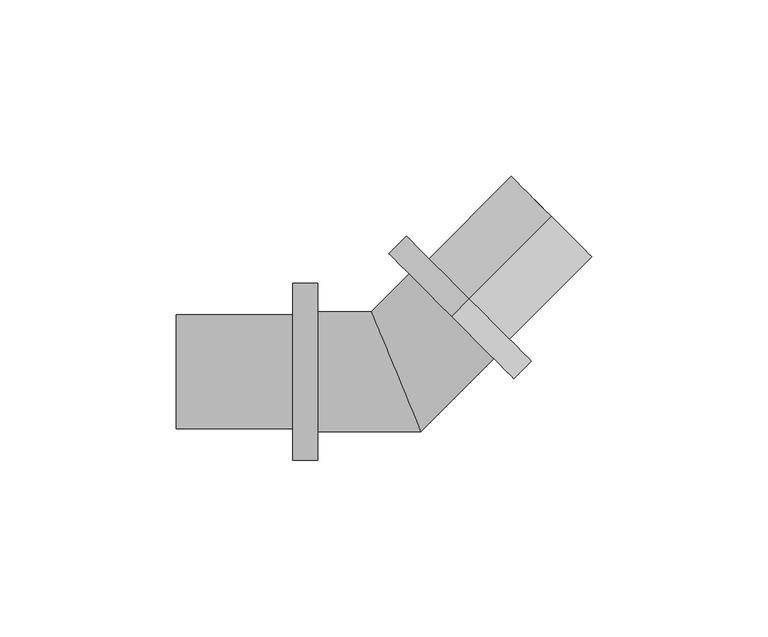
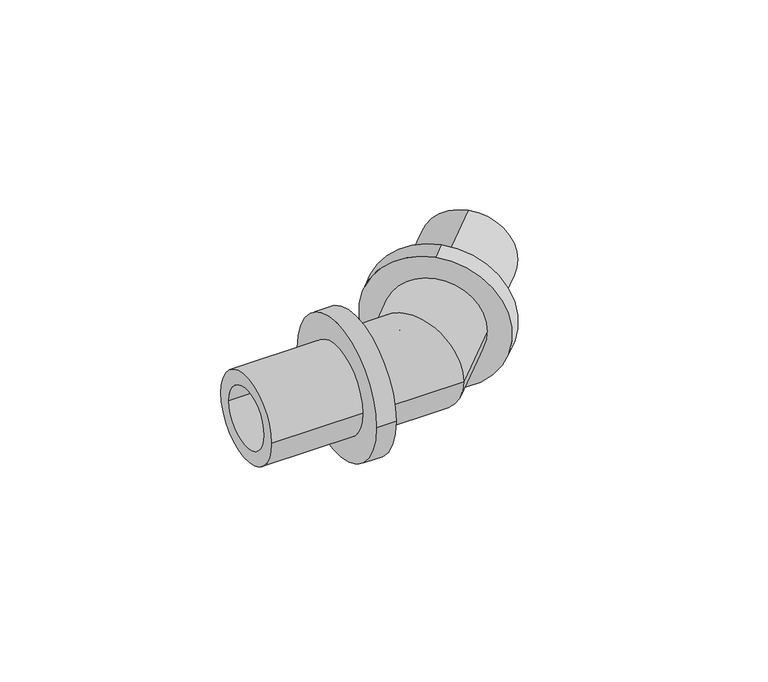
"""IFC4 building model written with IfcOpenShell, lengths in millimetres: pipe fitting geometry, RAUTITAN_Corner_PX : RTI PX C DE."""

from ifc_helpers import new_model, si_unit, frame, origin, place, context, project, spatial, polyline, circle_curve, ellipse_curve, source, transform, mapped, element, save
from ifc_brep_helpers import plane_surface, cylinder_surface, revolved_surface, advanced_brep


def pipe_fitting_6415dcd3(model_context):
    return source(origin(), model_context, "Body", "AdvancedBrep", [
        advanced_brep(
        [(20.6568542, 20.6568542, 25.1), (20.6568542, 20.6568542, -25.1), (15.7071068, 15.7071068, -25.1), (15.7071068, 15.7071068, 25.1), (43.991378, 43.991378, 16.1), (43.991378, 43.991378, -16.1), (20.6568542, 20.6568542, -16.1), (20.6568542, 20.6568542, 16.1), (15.7071068, 15.7071068, 11.0), (15.7071068, 15.7071068, -11.0), (43.991378, 43.991378, -11.0), (43.991378, 43.991378, 11.0)],
        [
            (0, 1, circle_curve(frame((20.6568542, 20.6568542, 0.0), z_axis=(-0.7071067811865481, -0.7071067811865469, 0.0), x_axis=(0.0, 0.0, -1.0)), 25.1)),
            (1, 2),
            (2, 3, circle_curve(frame((15.7071068, 15.7071068, 0.0), z_axis=(0.7071067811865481, 0.7071067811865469, 0.0), x_axis=(0.0, 0.0, -1.0)), 25.1)),
            (3, 0),
            (4, 5, circle_curve(frame((43.991378, 43.991378, 0.0), z_axis=(-0.7071067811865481, -0.7071067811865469, 0.0), x_axis=(0.0, 0.0, -1.0)), 16.1)),
            (5, 6),
            (6, 7, circle_curve(frame((20.6568542, 20.6568542, 0.0), z_axis=(0.7071067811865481, 0.7071067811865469, 0.0), x_axis=(0.0, 0.0, -1.0)), 16.1)),
            (7, 4),
            (8, 9, circle_curve(frame((15.7071068, 15.7071068, 0.0), z_axis=(-0.7071067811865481, -0.7071067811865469, 0.0), x_axis=(0.0, 0.0, -1.0)), 11.0)),
            (9, 10),
            (10, 11, circle_curve(frame((43.991378, 43.991378, 0.0), z_axis=(0.7071067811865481, 0.7071067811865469, 0.0), x_axis=(0.0, 0.0, -1.0)), 11.0)),
            (11, 8),
            (1, 0, circle_curve(frame((20.6568542, 20.6568542, 0.0), z_axis=(-0.7071067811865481, -0.7071067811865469, 0.0), x_axis=(0.0, 0.0, 1.0)), 25.1)),
            (3, 2, circle_curve(frame((15.7071068, 15.7071068, 0.0), z_axis=(0.7071067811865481, 0.7071067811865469, 0.0), x_axis=(0.0, 0.0, 1.0)), 25.1)),
            (6, 7, circle_curve(frame((20.6568542, 20.6568542, 0.0), z_axis=(-0.7071067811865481, -0.7071067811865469, 0.0), x_axis=(0.0, 0.0, 1.0)), 16.1)),
            (5, 4, circle_curve(frame((43.991378, 43.991378, 0.0), z_axis=(-0.7071067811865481, -0.7071067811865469, 0.0), x_axis=(0.0, 0.0, 1.0)), 16.1)),
            (10, 11, circle_curve(frame((43.991378, 43.991378, 0.0), z_axis=(-0.7071067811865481, -0.7071067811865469, 0.0), x_axis=(0.0, 0.0, 1.0)), 11.0)),
            (9, 8, circle_curve(frame((15.7071068, 15.7071068, 0.0), z_axis=(-0.7071067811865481, -0.7071067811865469, 0.0), x_axis=(0.0, 0.0, 1.0)), 11.0)),
        ],
        [
            cylinder_surface(frame((15.7071068, 15.7071068, 0.0), z_axis=(0.7071067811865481, 0.7071067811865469, 0.0), x_axis=(0.0, 0.0, -1.0)), 25.1),
            cylinder_surface(frame((15.7071068, 15.7071068, 0.0), z_axis=(0.7071067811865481, 0.7071067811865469, 0.0), x_axis=(0.0, 0.0, -1.0)), 16.1),
            revolved_surface(polyline([(43.991378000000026, 43.991377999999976, -11.0), (15.7071068, 15.7071068, -11.0)]), (15.7071068, 15.7071068, 0.0), (0.7071067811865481, 0.7071067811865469, 0.0)),
            cylinder_surface(frame((15.7071068, 15.7071068, 0.0), z_axis=(0.7071067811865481, 0.7071067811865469, 0.0), x_axis=(0.0, 0.0, 1.0)), 25.1),
            plane_surface(frame((20.6568542, 20.6568542, 0.0), z_axis=(0.7071067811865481, 0.7071067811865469, 0.0), x_axis=(0.0, 0.0, 1.0))),
            cylinder_surface(frame((15.7071068, 15.7071068, 0.0), z_axis=(0.7071067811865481, 0.7071067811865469, 0.0), x_axis=(0.0, 0.0, 1.0)), 16.1),
            plane_surface(frame((43.991378, 43.991378, 0.0), z_axis=(0.7071067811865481, 0.7071067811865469, 0.0), x_axis=(0.0, 0.0, 1.0))),
            revolved_surface(polyline([(43.991378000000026, 43.991377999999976, 11.0), (15.7071068, 15.7071068, 11.0)]), (15.7071068, 15.7071068, 0.0), (0.7071067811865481, 0.7071067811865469, 0.0)),
            plane_surface(frame((15.7071068, 15.7071068, 0.0), z_axis=(-0.7071067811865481, -0.7071067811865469, 0.0), x_axis=(0.0, 0.0, 1.0))),
        ],
        [
            (0, [[1, 2, 3, 4]]),
            (1, [[5, 6, 7, 8]]),
            (2, [[9, 10, 11, 12]]),
            (3, [[13, -4, 14, -2]]),
            (4, [[-13, -1], [15, -7]]),
            (5, [[16, -8, -15, -6]]),
            (6, [[-16, -5], [17, -11]]),
            (7, [[18, -12, -17, -10]]),
            (8, [[-14, -3], [-18, -9]]),
        ],
    ),
        advanced_brep(
        [(-29.2132034, -25.1, 0.0), (-29.2132034, 25.1, 0.0), (-22.2132034, 25.1, 0.0), (-22.2132034, -25.1, 0.0), (-62.2132034, -16.1, 0.0), (-62.2132034, 16.1, 0.0), (-29.2132034, 16.1, 0.0), (-29.2132034, -16.1, 0.0), (-22.2132034, -11.0, 0.0), (-22.2132034, 11.0, 0.0), (-62.2132034, 11.0, 0.0), (-62.2132034, -11.0, 0.0)],
        [
            (0, 1, circle_curve(frame((-29.2132034, 0.0, 0.0), z_axis=(1.0, 0.0, 0.0), x_axis=(0.0, 1.0, 0.0)), 25.1)),
            (1, 2),
            (2, 3, circle_curve(frame((-22.2132034, 0.0, 0.0), z_axis=(-1.0, 0.0, 0.0), x_axis=(0.0, 1.0, 0.0)), 25.1)),
            (3, 0),
            (4, 5, circle_curve(frame((-62.2132034, 0.0, 0.0), z_axis=(1.0, 0.0, 0.0), x_axis=(0.0, 1.0, 0.0)), 16.1)),
            (5, 6),
            (6, 7, circle_curve(frame((-29.2132034, 0.0, 0.0), z_axis=(-1.0, 0.0, 0.0), x_axis=(0.0, 1.0, 0.0)), 16.1)),
            (7, 4),
            (8, 9, circle_curve(frame((-22.2132034, 0.0, 0.0), z_axis=(1.0, 0.0, 0.0), x_axis=(0.0, 1.0, 0.0)), 11.0)),
            (9, 10),
            (10, 11, circle_curve(frame((-62.2132034, 0.0, 0.0), z_axis=(-1.0, 0.0, 0.0), x_axis=(0.0, 1.0, 0.0)), 11.0)),
            (11, 8),
            (1, 0, circle_curve(frame((-29.2132034, 0.0, 0.0), z_axis=(1.0, 0.0, 0.0), x_axis=(0.0, -1.0, 0.0)), 25.1)),
            (3, 2, circle_curve(frame((-22.2132034, 0.0, 0.0), z_axis=(-1.0, 0.0, 0.0), x_axis=(0.0, -1.0, 0.0)), 25.1)),
            (6, 7, circle_curve(frame((-29.2132034, 0.0, 0.0), z_axis=(1.0, 0.0, 0.0), x_axis=(0.0, -1.0, 0.0)), 16.1)),
            (5, 4, circle_curve(frame((-62.2132034, 0.0, 0.0), z_axis=(1.0, 0.0, 0.0), x_axis=(0.0, -1.0, 0.0)), 16.1)),
            (10, 11, circle_curve(frame((-62.2132034, 0.0, 0.0), z_axis=(1.0, 0.0, 0.0), x_axis=(0.0, -1.0, 0.0)), 11.0)),
            (9, 8, circle_curve(frame((-22.2132034, 0.0, 0.0), z_axis=(1.0, 0.0, 0.0), x_axis=(0.0, -1.0, 0.0)), 11.0)),
        ],
        [
            cylinder_surface(frame((-22.2132034, 0.0, 0.0), z_axis=(-1.0, 0.0, 0.0), x_axis=(0.0, 1.0, 0.0)), 25.1),
            cylinder_surface(frame((-22.2132034, 0.0, 0.0), z_axis=(-1.0, 0.0, 0.0), x_axis=(0.0, 1.0, 0.0)), 16.1),
            revolved_surface(polyline([(-62.2132034, 11.0, 0.0), (-22.2132034, 11.0, 0.0)]), (-22.2132034, 0.0, 0.0), (-1.0, 0.0, 0.0)),
            cylinder_surface(frame((-22.2132034, 0.0, 0.0), z_axis=(-1.0, 0.0, 0.0), x_axis=(0.0, -1.0, 0.0)), 25.1),
            plane_surface(frame((-29.2132034, 0.0, 0.0), z_axis=(-1.0, 0.0, 0.0), x_axis=(0.0, -1.0, 0.0))),
            cylinder_surface(frame((-22.2132034, 0.0, 0.0), z_axis=(-1.0, 0.0, 0.0), x_axis=(0.0, -1.0, 0.0)), 16.1),
            plane_surface(frame((-62.2132034, 0.0, 0.0), z_axis=(-1.0, 0.0, 0.0), x_axis=(0.0, -1.0, 0.0))),
            revolved_surface(polyline([(-62.2132034, -11.0, 0.0), (-22.2132034, -11.0, 0.0)]), (-22.2132034, 0.0, 0.0), (-1.0, 0.0, 0.0)),
            plane_surface(frame((-22.2132034, 0.0, 0.0), z_axis=(1.0, 0.0, 0.0), x_axis=(0.0, -1.0, 0.0))),
        ],
        [
            (0, [[1, 2, 3, 4]]),
            (1, [[5, 6, 7, 8]]),
            (2, [[9, 10, 11, 12]]),
            (3, [[13, -4, 14, -2]]),
            (4, [[-13, -1], [15, -7]]),
            (5, [[16, -8, -15, -6]]),
            (6, [[-16, -5], [17, -11]]),
            (7, [[18, -12, -17, -10]]),
            (8, [[-14, -3], [-18, -9]]),
        ],
    ),
        advanced_brep(
        [(-22.2132034, -17.0, 0.0), (-22.2132034, 17.0, 0.0), (-22.2132034, -11.0, 0.0), (-22.2132034, 11.0, 0.0), (-4.5563492, 11.0, 0.0), (4.5563492, -11.0, 0.0), (27.7279221, 3.6862915, 0.0), (3.6862915, 27.7279221, 0.0), (23.4852814, 7.9289322, 0.0), (7.9289322, 23.4852814, 0.0), (7.0416306, -17.0, 0.0), (-7.0416306, 17.0, 0.0)],
        [
            (0, 1, circle_curve(frame((-22.2132034, 0.0, 0.0), z_axis=(-1.0, 0.0, 0.0), x_axis=(0.0, 1.0, 0.0)), 17.0)),
            (1, 0, circle_curve(frame((-22.2132034, 0.0, 0.0), z_axis=(-1.0, 0.0, 0.0), x_axis=(0.0, 1.0, 0.0)), 17.0)),
            (2, 3, circle_curve(frame((-22.2132034, 0.0, 0.0), z_axis=(1.0, 0.0, 0.0), x_axis=(0.0, 1.0, 0.0)), 11.0)),
            (3, 2, circle_curve(frame((-22.2132034, 0.0, 0.0), z_axis=(1.0, 0.0, 0.0), x_axis=(0.0, 1.0, 0.0)), 11.0)),
            (3, 4),
            (4, 5, ellipse_curve(frame((0.0, 0.0, 0.0), z_axis=(0.923879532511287, 0.3826834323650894, 0.0), x_axis=(0.3826834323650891, -0.9238795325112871, 0.0)), 11.9063142, 11.0)),
            (5, 2),
            (5, 4, ellipse_curve(frame((0.0, 0.0, 0.0), z_axis=(0.923879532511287, 0.3826834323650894, 0.0), x_axis=(0.3826834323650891, -0.9238795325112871, 0.0)), 11.9063142, 11.0)),
            (6, 7, circle_curve(frame((15.7071068, 15.7071068, 0.0), z_axis=(0.7071067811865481, 0.7071067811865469, 0.0), x_axis=(-0.7071067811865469, 0.7071067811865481, 0.0)), 17.0)),
            (7, 6, circle_curve(frame((15.7071068, 15.7071068, 0.0), z_axis=(0.7071067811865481, 0.7071067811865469, 0.0), x_axis=(-0.7071067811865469, 0.7071067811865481, 0.0)), 17.0)),
            (8, 9, circle_curve(frame((15.7071068, 15.7071068, 0.0), z_axis=(-0.7071067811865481, -0.7071067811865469, 0.0), x_axis=(-0.7071067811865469, 0.7071067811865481, 0.0)), 11.0)),
            (9, 8, circle_curve(frame((15.7071068, 15.7071068, 0.0), z_axis=(-0.7071067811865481, -0.7071067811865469, 0.0), x_axis=(-0.7071067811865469, 0.7071067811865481, 0.0)), 11.0)),
            (4, 9),
            (8, 5),
            (0, 10),
            (10, 11, ellipse_curve(frame((0.0, 0.0, 0.0), z_axis=(-0.923879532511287, -0.3826834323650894, 0.0), x_axis=(-0.3826834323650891, 0.9238795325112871, 0.0)), 18.4006674, 17.0)),
            (11, 1),
            (11, 10, ellipse_curve(frame((0.0, 0.0, 0.0), z_axis=(-0.923879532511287, -0.3826834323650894, 0.0), x_axis=(-0.3826834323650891, 0.9238795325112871, 0.0)), 18.4006674, 17.0)),
            (10, 6),
            (7, 11),
        ],
        [
            plane_surface(frame((-22.2132034, 0.0, 0.0), z_axis=(-1.0, 0.0, 0.0), x_axis=(0.0, 0.0, 1.0))),
            revolved_surface(polyline([(4.5563492, 11.0, 0.0), (-22.2132034, 11.0, 0.0)]), (-22.2132034, 0.0, 0.0), (1.0, 0.0, 0.0)),
            plane_surface(frame((15.7071068, 15.7071068, 0.0), z_axis=(0.7071067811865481, 0.7071067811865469, 0.0), x_axis=(0.0, 0.0, 1.0))),
            revolved_surface(polyline([(7.928932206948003, 23.485281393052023, 0.0), (-10.999999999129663, 4.556349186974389, 0.0)]), (0.0, 0.0, 0.0), (0.7071067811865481, 0.7071067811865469, 0.0)),
            cylinder_surface(frame((-22.2132034, 0.0, 0.0), z_axis=(-1.0, 0.0, 0.0), x_axis=(0.0, 1.0, 0.0)), 17.0),
            cylinder_surface(frame((0.0, 0.0, 0.0), z_axis=(-0.7071067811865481, -0.7071067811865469, 0.0), x_axis=(-0.7071067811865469, 0.7071067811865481, 0.0)), 17.0),
        ],
        [
            (0, [[1, 2], [3, 4]]),
            (1, [[-4, 5, 6, 7]]),
            (1, [[-3, -7, 8, -5]]),
            (2, [[9, 10], [11, 12]]),
            (3, [[-6, 13, -11, 14]]),
            (3, [[-8, -14, -12, -13]]),
            (4, [[-1, 15, 16, 17]]),
            (4, [[-2, -17, 18, -15]]),
            (5, [[-16, 19, -10, 20]]),
            (5, [[-18, -20, -9, -19]]),
        ],
    ),
    ])


if __name__ == "__main__":
    model = new_model("IFC4")
    model_context = context("Model", 3, world=origin())
    ifc_project = project(units=[si_unit("LENGTHUNIT", "METRE", prefix="MILLI")], contexts=[model_context])
    site = spatial("IfcSite", under=ifc_project)
    building = spatial("IfcBuilding", under=site)
    placement = place(None, origin())
    pipe_fitting_shape = pipe_fitting_6415dcd3(model_context)
    element("IfcPipeFitting", 1, ObjectType="RAUTITAN_Corner_PX : RTI PX C DE", at=placement, inside=building, context=model_context, shape_type="MappedRepresentation", body=[
        mapped(pipe_fitting_shape, transform((0.0, 0.0, 0.0), x_axis=(1.0, 0.0, 0.0), y_axis=(0.0, 1.0, 0.0), z_axis=(0.0, 0.0, 1.0))),
    ])
    save(model, "model.ifc")
